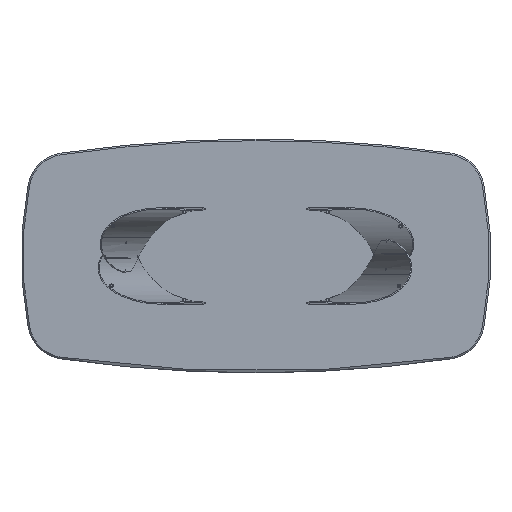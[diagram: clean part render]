
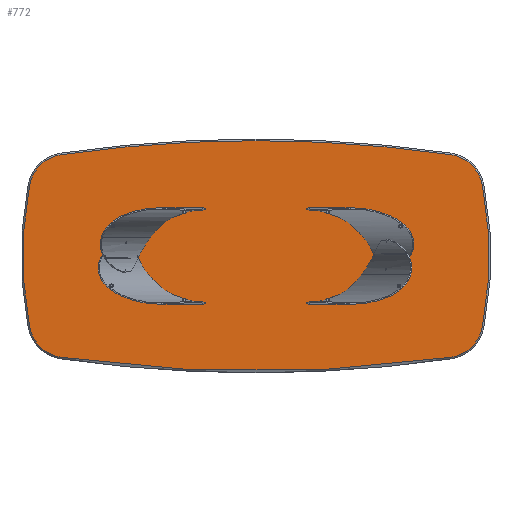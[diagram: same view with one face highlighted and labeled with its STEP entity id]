
A CAD part, front view. The second image highlights one B-rep face of the part: STEP entity #772.
In plain terms, the highlighted planar face has unit normal (0, -1, 0).
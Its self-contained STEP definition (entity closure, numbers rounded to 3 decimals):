
#31 = DIRECTION ( 'NONE',  ( 0., -1., 0. ) ) ;
#206 = ORIENTED_EDGE ( 'NONE', *, *, #1375, .T. ) ;
#296 = CIRCLE ( 'NONE', #9289, 192. ) ;
#364 = DIRECTION ( 'NONE',  ( 0., -1., 0. ) ) ;
#644 = ORIENTED_EDGE ( 'NONE', *, *, #8189, .T. ) ;
#650 = CARTESIAN_POINT ( 'NONE',  ( 0., 0., 6355. ) ) ;
#772 = ADVANCED_FACE ( 'NONE', ( #5307 ), #9252, .F. ) ;
#1014 = CARTESIAN_POINT ( 'NONE',  ( -705., 0., 0. ) ) ;
#1375 = EDGE_CURVE ( 'NONE', #11922, #3915, #5837, .T. ) ;
#2111 = ORIENTED_EDGE ( 'NONE', *, *, #6924, .T. ) ;
#2255 = ORIENTED_EDGE ( 'NONE', *, *, #2287, .T. ) ;
#2265 = CARTESIAN_POINT ( 'NONE',  ( -1151.911, 0., 362.691 ) ) ;
#2287 = EDGE_CURVE ( 'NONE', #3915, #3305, #4737, .T. ) ;
#2564 = VERTEX_POINT ( 'NONE', #12517 ) ;
#2641 = EDGE_CURVE ( 'NONE', #3305, #2564, #8999, .T. ) ;
#2768 = CIRCLE ( 'NONE', #6547, 6942. ) ;
#3133 = EDGE_CURVE ( 'NONE', #6202, #7685, #6761, .T. ) ;
#3256 = EDGE_CURVE ( 'NONE', #7937, #7199, #2768, .T. ) ;
#3283 = CARTESIAN_POINT ( 'NONE',  ( -352.5, 0., 3177.5 ) ) ;
#3305 = VERTEX_POINT ( 'NONE', #3823 ) ;
#3757 = DIRECTION ( 'NONE',  ( 0., 0., 1. ) ) ;
#3823 = CARTESIAN_POINT ( 'NONE',  ( 1151.911, 0., 362.691 ) ) ;
#3915 = VERTEX_POINT ( 'NONE', #8700 ) ;
#4708 = DIRECTION ( 'NONE',  ( 0., 0., 1. ) ) ;
#4737 = CIRCLE ( 'NONE', #12075, 1892. ) ;
#4997 = DIRECTION ( 'NONE',  ( 0., 0., 1. ) ) ;
#5122 = DIRECTION ( 'NONE',  ( 0., 1., 0. ) ) ;
#5307 = FACE_OUTER_BOUND ( 'NONE', #9556, .T. ) ;
#5555 = AXIS2_PLACEMENT_3D ( 'NONE', #650, #8521, #4708 ) ;
#5608 = DIRECTION ( 'NONE',  ( 0., -1., 0. ) ) ;
#5735 = ORIENTED_EDGE ( 'NONE', *, *, #9014, .T. ) ;
#5770 = DIRECTION ( 'NONE',  ( 0., -1., 0. ) ) ;
#5837 = CIRCLE ( 'NONE', #7512, 192. ) ;
#5894 = CARTESIAN_POINT ( 'NONE',  ( 963.472, 0., 325.885 ) ) ;
#5962 = AXIS2_PLACEMENT_3D ( 'NONE', #3283, #5122, #12068 ) ;
#6042 = ORIENTED_EDGE ( 'NONE', *, *, #3133, .T. ) ;
#6178 = CARTESIAN_POINT ( 'NONE',  ( -963.472, 0., 325.885 ) ) ;
#6202 = VERTEX_POINT ( 'NONE', #2265 ) ;
#6205 = CARTESIAN_POINT ( 'NONE',  ( 705., 0., 0. ) ) ;
#6235 = DIRECTION ( 'NONE',  ( 0., -1., 0. ) ) ;
#6247 = DIRECTION ( 'NONE',  ( 0., 0., 1. ) ) ;
#6466 = DIRECTION ( 'NONE',  ( 0., -1., 0. ) ) ;
#6547 = AXIS2_PLACEMENT_3D ( 'NONE', #12729, #8877, #3757 ) ;
#6641 = ORIENTED_EDGE ( 'NONE', *, *, #2641, .T. ) ;
#6710 = EDGE_CURVE ( 'NONE', #9972, #11922, #10777, .T. ) ;
#6761 = CIRCLE ( 'NONE', #12196, 1892. ) ;
#6924 = EDGE_CURVE ( 'NONE', #2564, #7937, #8907, .T. ) ;
#7198 = DIRECTION ( 'NONE',  ( 0., -1., 0. ) ) ;
#7199 = VERTEX_POINT ( 'NONE', #11563 ) ;
#7321 = AXIS2_PLACEMENT_3D ( 'NONE', #5894, #5770, #7875 ) ;
#7512 = AXIS2_PLACEMENT_3D ( 'NONE', #9402, #364, #6247 ) ;
#7685 = VERTEX_POINT ( 'NONE', #9118 ) ;
#7768 = CARTESIAN_POINT ( 'NONE',  ( -963.472, 0., -325.885 ) ) ;
#7875 = DIRECTION ( 'NONE',  ( 0., 0., 1. ) ) ;
#7894 = CARTESIAN_POINT ( 'NONE',  ( 0., 0., 587. ) ) ;
#7937 = VERTEX_POINT ( 'NONE', #7894 ) ;
#8189 = EDGE_CURVE ( 'NONE', #7685, #9972, #11611, .T. ) ;
#8521 = DIRECTION ( 'NONE',  ( 0., -1., 0. ) ) ;
#8700 = CARTESIAN_POINT ( 'NONE',  ( 1151.911, 0., -362.691 ) ) ;
#8877 = DIRECTION ( 'NONE',  ( 0., -1., 0. ) ) ;
#8907 = CIRCLE ( 'NONE', #9526, 6942. ) ;
#8999 = CIRCLE ( 'NONE', #7321, 192. ) ;
#9014 = EDGE_CURVE ( 'NONE', #7199, #6202, #296, .T. ) ;
#9118 = CARTESIAN_POINT ( 'NONE',  ( -1151.911, 0., -362.691 ) ) ;
#9139 = DIRECTION ( 'NONE',  ( 0., 0., 1. ) ) ;
#9252 = PLANE ( 'NONE',  #5962 ) ;
#9289 = AXIS2_PLACEMENT_3D ( 'NONE', #6178, #31, #9139 ) ;
#9402 = CARTESIAN_POINT ( 'NONE',  ( 963.472, 0., -325.885 ) ) ;
#9526 = AXIS2_PLACEMENT_3D ( 'NONE', #11254, #6466, #10457 ) ;
#9549 = CARTESIAN_POINT ( 'NONE',  ( 990.878, 0., -515.919 ) ) ;
#9556 = EDGE_LOOP ( 'NONE', ( #644, #12262, #206, #2255, #6641, #2111, #11708, #5735, #6042 ) ) ;
#9972 = VERTEX_POINT ( 'NONE', #12146 ) ;
#10457 = DIRECTION ( 'NONE',  ( 0., 0., 1. ) ) ;
#10777 = CIRCLE ( 'NONE', #5555, 6942. ) ;
#11189 = DIRECTION ( 'NONE',  ( 0., 0., 1. ) ) ;
#11254 = CARTESIAN_POINT ( 'NONE',  ( 0., 0., -6355. ) ) ;
#11563 = CARTESIAN_POINT ( 'NONE',  ( -990.878, 0., 515.919 ) ) ;
#11611 = CIRCLE ( 'NONE', #12657, 192. ) ;
#11708 = ORIENTED_EDGE ( 'NONE', *, *, #3256, .T. ) ;
#11755 = DIRECTION ( 'NONE',  ( 0., 0., 1. ) ) ;
#11922 = VERTEX_POINT ( 'NONE', #9549 ) ;
#12068 = DIRECTION ( 'NONE',  ( 0., 0., 1. ) ) ;
#12075 = AXIS2_PLACEMENT_3D ( 'NONE', #1014, #6235, #4997 ) ;
#12146 = CARTESIAN_POINT ( 'NONE',  ( -990.878, 0., -515.919 ) ) ;
#12196 = AXIS2_PLACEMENT_3D ( 'NONE', #6205, #7198, #11189 ) ;
#12262 = ORIENTED_EDGE ( 'NONE', *, *, #6710, .T. ) ;
#12517 = CARTESIAN_POINT ( 'NONE',  ( 990.878, 0., 515.919 ) ) ;
#12657 = AXIS2_PLACEMENT_3D ( 'NONE', #7768, #5608, #11755 ) ;
#12729 = CARTESIAN_POINT ( 'NONE',  ( 0., 0., -6355. ) ) ;
